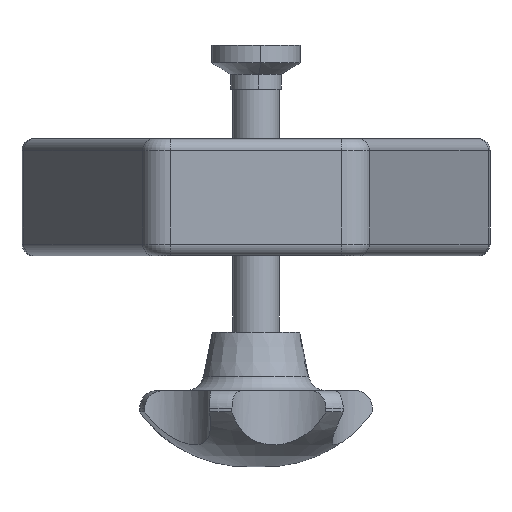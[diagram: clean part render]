
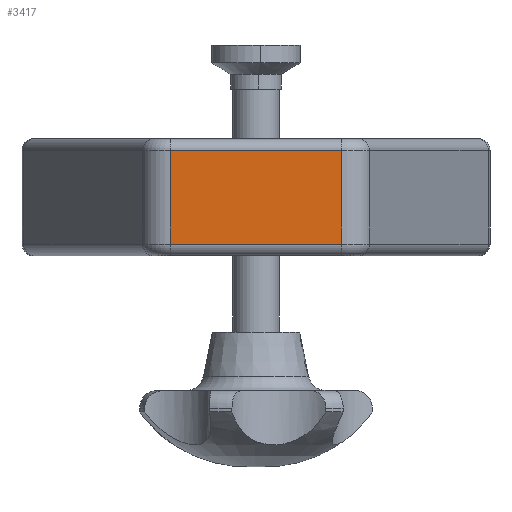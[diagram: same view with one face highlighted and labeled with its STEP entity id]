
A CAD part, left-side view. The second image highlights one B-rep face of the part: STEP entity #3417.
In plain terms, the highlighted planar face has unit normal (-1, 0, 0).
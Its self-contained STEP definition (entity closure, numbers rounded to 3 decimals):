
#45 = DIRECTION ( 'NONE',  ( 0., 0., 1. ) ) ;
#46 = DIRECTION ( 'NONE',  ( -1., 0., 0. ) ) ;
#47 = AXIS2_PLACEMENT_3D ( 'NONE', #49, #46, #45 ) ;
#49 = CARTESIAN_POINT ( 'NONE',  ( -57.61, -108.373, 20. ) ) ;
#50 = PLANE ( 'NONE',  #47 ) ;
#51 = FACE_OUTER_BOUND ( 'NONE', #3418, .T. ) ;
#465 = CARTESIAN_POINT ( 'NONE',  ( -57.61, 14.661, 18. ) ) ;
#466 = DIRECTION ( 'NONE',  ( 0., 0., -1. ) ) ;
#467 = VECTOR ( 'NONE', #466, 1000. ) ;
#468 = CARTESIAN_POINT ( 'NONE',  ( -57.61, 14.661, 20. ) ) ;
#469 = LINE ( 'NONE', #468, #467 ) ;
#470 = CARTESIAN_POINT ( 'NONE',  ( -57.61, 14.661, 2. ) ) ;
#481 = CARTESIAN_POINT ( 'NONE',  ( -57.61, -14.661, 18. ) ) ;
#482 = DIRECTION ( 'NONE',  ( 0., 0., -1. ) ) ;
#483 = VECTOR ( 'NONE', #482, 1000. ) ;
#484 = CARTESIAN_POINT ( 'NONE',  ( -57.61, -14.661, 20. ) ) ;
#485 = LINE ( 'NONE', #484, #483 ) ;
#486 = CARTESIAN_POINT ( 'NONE',  ( -57.61, -14.661, 2. ) ) ;
#487 = DIRECTION ( 'NONE',  ( 0., -1., 0. ) ) ;
#488 = VECTOR ( 'NONE', #487, 1000. ) ;
#489 = CARTESIAN_POINT ( 'NONE',  ( -57.61, -14.661, 2. ) ) ;
#490 = LINE ( 'NONE', #489, #488 ) ;
#524 = DIRECTION ( 'NONE',  ( 0., 1., 0. ) ) ;
#525 = VECTOR ( 'NONE', #524, 1000. ) ;
#526 = CARTESIAN_POINT ( 'NONE',  ( -57.61, -108.373, 18. ) ) ;
#527 = LINE ( 'NONE', #526, #525 ) ;
#3417 = ADVANCED_FACE ( 'NONE', ( #51 ), #50, .T. ) ;
#3418 = EDGE_LOOP ( 'NONE', ( #3419, #3648, #3651, #3662 ) ) ;
#3419 = ORIENTED_EDGE ( 'NONE', *, *, #3626, .T. ) ;
#3624 = VERTEX_POINT ( 'NONE', #470 ) ;
#3626 = EDGE_CURVE ( 'NONE', #3627, #3624, #469, .T. ) ;
#3627 = VERTEX_POINT ( 'NONE', #465 ) ;
#3648 = ORIENTED_EDGE ( 'NONE', *, *, #3649, .T. ) ;
#3649 = EDGE_CURVE ( 'NONE', #3624, #3650, #490, .T. ) ;
#3650 = VERTEX_POINT ( 'NONE', #486 ) ;
#3651 = ORIENTED_EDGE ( 'NONE', *, *, #3652, .F. ) ;
#3652 = EDGE_CURVE ( 'NONE', #3653, #3650, #485, .T. ) ;
#3653 = VERTEX_POINT ( 'NONE', #481 ) ;
#3662 = ORIENTED_EDGE ( 'NONE', *, *, #3663, .T. ) ;
#3663 = EDGE_CURVE ( 'NONE', #3653, #3627, #527, .T. ) ;
